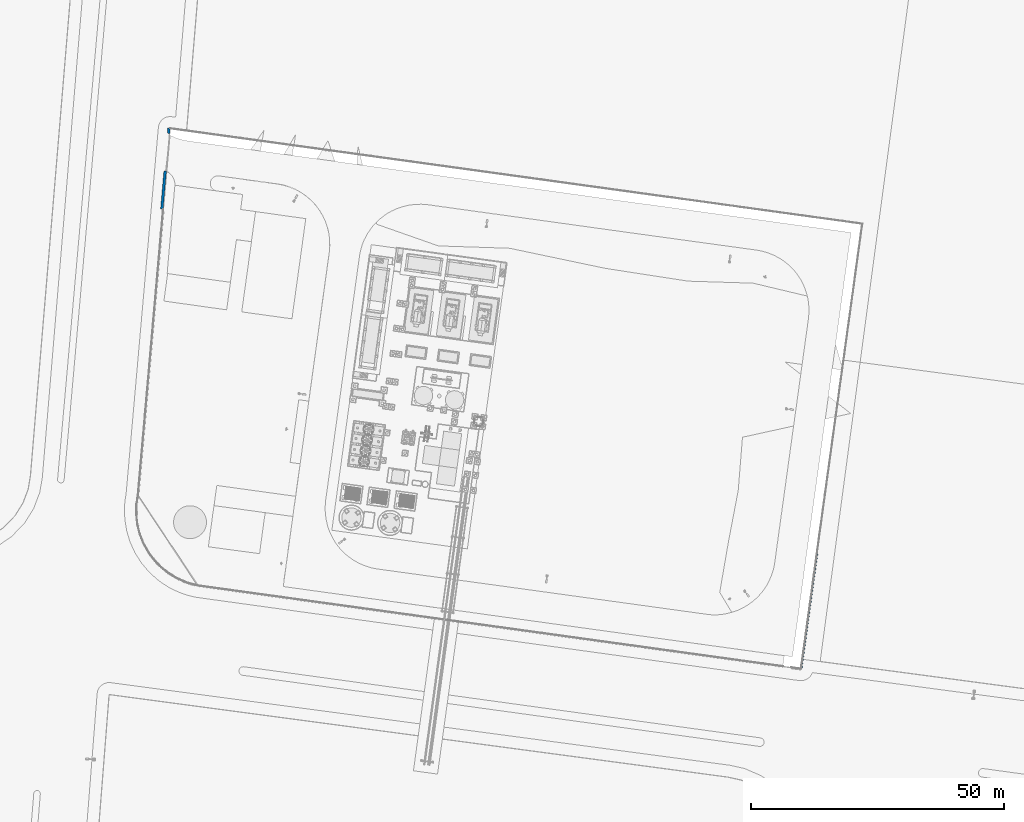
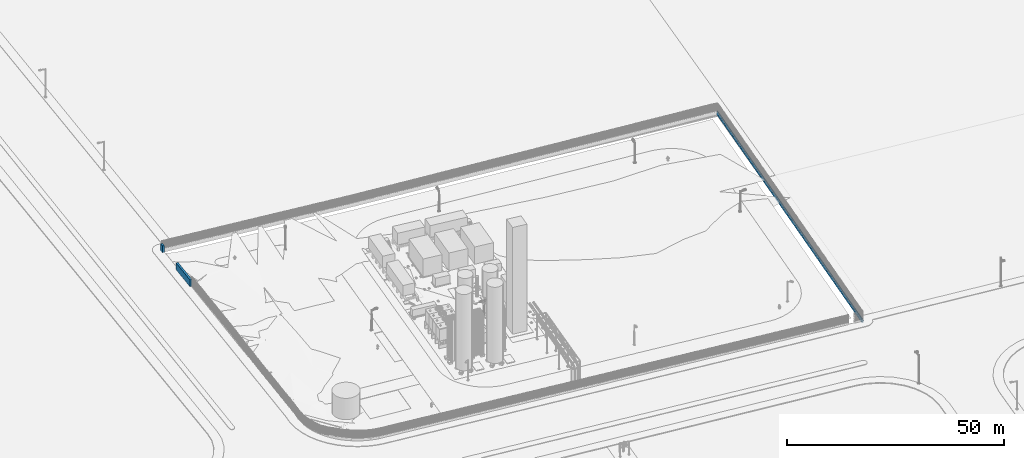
# Not in any storey, part 22 of 75: 3 walls.
"""IFC4 model written with IfcOpenShell, lengths in metres."""

from ifc_helpers import new_model, si_unit, direction, origin, origin_with_axes, place, context, subcontext, project, spatial, triangles, element, save


model = new_model("IFC4")

# Units and contexts
model_context = context("Model", 3, precision=1e-05, world=origin_with_axes(), true_north=direction((0.0, 1.0)))
body_context = subcontext(model_context, "Body", "Model", "MODEL_VIEW")
ifc_project = project(units=[si_unit("AREAUNIT", "SQUARE_METRE"), si_unit("VOLUMEUNIT", "CUBIC_METRE"), si_unit("LENGTHUNIT", "METRE")], contexts=[model_context])

# Site
site_placement = place(None, origin_with_axes())
site = spatial("IfcSite", under=ifc_project, at=site_placement, Name="Parcela industrial Jinhong")

# Walls
wall_1_placement = place(None, origin())
element("IfcWall", 1, at=wall_1_placement, inside=site, Name="Basamento de vallado · Este", ObjectType="Hormigón prefabricado", PredefinedType="USERDEFINED", context=body_context, shape_type="Tessellation", body=[
    triangles([(137.047198, 90.546074, 2.457952), (137.443451, 90.491454, 2.457952), (137.443451, 90.491454, 3.007952), (137.344388, 90.505109, 3.457952), (137.146261, 90.532419, 3.457952), (137.047198, 90.546074, 3.007952), (136.774098, 88.564807, 2.457952), (137.170351, 88.510188, 2.457952), (137.170351, 88.510188, 3.007952), (137.071288, 88.523842, 3.457952), (136.873162, 88.551152, 3.457952), (136.774098, 88.564807, 3.007952)], [[2, 8, 1], [1, 8, 7], [9, 8, 2], [2, 3, 9], [9, 3, 4], [4, 10, 9], [7, 8, 12], [8, 9, 12], [10, 11, 12], [12, 9, 10], [5, 11, 10], [5, 10, 4], [6, 3, 2], [2, 1, 6], [4, 3, 6], [6, 5, 4], [6, 1, 7], [7, 12, 6], [6, 12, 11], [11, 5, 6]], closed=True),
    triangles([(136.774098, 88.564807, 2.457952), (137.170351, 88.510188, 2.457952), (137.170351, 88.510188, 3.007952), (137.071288, 88.523842, 3.457952), (136.873162, 88.551152, 3.457952), (136.774098, 88.564807, 3.007952), (136.500999, 86.583541, 2.433414), (136.897252, 86.528921, 2.433414), (136.897252, 86.528921, 2.983414), (136.798189, 86.542576, 3.433414), (136.600062, 86.569886, 3.433414), (136.500999, 86.583541, 2.983414)], [[2, 8, 1], [1, 8, 7], [9, 8, 2], [2, 3, 9], [9, 3, 4], [4, 10, 9], [7, 8, 12], [8, 9, 12], [10, 11, 12], [12, 9, 10], [5, 11, 10], [5, 10, 4], [6, 3, 2], [2, 1, 6], [4, 3, 6], [6, 5, 4], [6, 1, 7], [7, 12, 6], [6, 12, 11], [11, 5, 6]], closed=True),
    triangles([(136.500999, 86.583541, 2.433414), (136.897252, 86.528921, 2.433414), (136.897252, 86.528921, 2.983414), (136.798189, 86.542576, 3.433414), (136.600062, 86.569886, 3.433414), (136.500999, 86.583541, 2.983414), (136.227899, 84.602275, 2.409624), (136.624153, 84.547655, 2.409624), (136.624153, 84.547655, 2.959624), (136.525089, 84.56131, 3.409624), (136.326963, 84.58862, 3.409624), (136.227899, 84.602275, 2.959624)], [[2, 8, 1], [1, 8, 7], [3, 8, 2], [3, 9, 8], [10, 9, 3], [4, 10, 3], [8, 9, 12], [7, 8, 12], [12, 9, 10], [10, 11, 12], [5, 11, 10], [5, 10, 4], [2, 1, 6], [6, 3, 2], [4, 3, 6], [6, 5, 4], [6, 1, 7], [7, 12, 6], [6, 12, 11], [11, 5, 6]], closed=True),
    triangles([(136.227899, 84.602275, 2.409624), (136.624153, 84.547655, 2.409624), (136.624153, 84.547655, 2.959624), (136.525089, 84.56131, 3.409624), (136.326963, 84.58862, 3.409624), (136.227899, 84.602275, 2.959624), (135.9548, 82.621008, 2.383452), (136.351053, 82.566388, 2.383452), (136.351053, 82.566388, 2.933452), (136.25199, 82.580043, 3.383452), (136.053863, 82.607353, 3.383452), (135.9548, 82.621008, 2.933452)], [[2, 8, 1], [1, 8, 7], [9, 8, 2], [2, 3, 9], [9, 3, 4], [4, 10, 9], [6, 3, 2], [2, 1, 6], [4, 3, 6], [6, 5, 4], [4, 5, 11], [11, 10, 4], [7, 8, 12], [8, 9, 12], [12, 9, 10], [10, 11, 12], [12, 1, 7], [12, 6, 1], [5, 6, 12], [12, 11, 5]], closed=True),
    triangles([(135.9548, 82.621008, 2.383452), (136.351053, 82.566388, 2.383452), (136.351053, 82.566388, 2.933452), (136.25199, 82.580043, 3.383452), (136.053863, 82.607353, 3.383452), (135.9548, 82.621008, 2.933452), (135.681701, 80.639742, 2.359109), (136.077954, 80.585122, 2.359109), (136.077954, 80.585122, 2.909109), (135.978891, 80.598777, 3.359109), (135.780764, 80.626087, 3.359109), (135.681701, 80.639742, 2.909109)], [[2, 8, 1], [1, 8, 7], [9, 8, 2], [2, 3, 9], [9, 3, 4], [4, 10, 9], [7, 8, 12], [8, 9, 12], [10, 11, 12], [12, 9, 10], [5, 11, 10], [5, 10, 4], [6, 3, 2], [2, 1, 6], [4, 3, 6], [6, 5, 4], [6, 1, 7], [7, 12, 6], [6, 12, 11], [11, 5, 6]], closed=True),
    triangles([(135.681701, 80.639742, 2.359109), (136.077954, 80.585122, 2.359109), (136.077954, 80.585122, 2.909109), (135.978891, 80.598777, 3.359109), (135.780764, 80.626087, 3.359109), (135.681701, 80.639742, 2.909109), (135.408601, 78.658475, 2.333603), (135.804855, 78.603855, 2.333603), (135.804855, 78.603855, 2.883603), (135.705791, 78.61751, 3.333603), (135.507665, 78.64482, 3.333603), (135.408601, 78.658475, 2.883603)], [[2, 8, 1], [1, 8, 7], [9, 8, 2], [2, 3, 9], [9, 3, 4], [4, 10, 9], [6, 3, 2], [2, 1, 6], [4, 3, 6], [6, 5, 4], [4, 5, 11], [11, 10, 4], [7, 8, 12], [8, 9, 12], [12, 9, 10], [10, 11, 12], [12, 1, 7], [12, 6, 1], [5, 6, 12], [12, 11, 5]], closed=True),
    triangles([(135.408601, 78.658475, 2.333603), (135.804855, 78.603855, 2.333603), (135.804855, 78.603855, 2.883603), (135.705791, 78.61751, 3.333603), (135.507665, 78.64482, 3.333603), (135.408601, 78.658475, 2.883603), (135.135502, 76.677209, 2.309376), (135.531755, 76.622589, 2.309376), (135.531755, 76.622589, 2.859376), (135.432692, 76.636244, 3.309376), (135.234565, 76.663554, 3.309376), (135.135502, 76.677209, 2.859376)], [[2, 8, 1], [1, 8, 7], [9, 8, 2], [2, 3, 9], [9, 3, 4], [4, 10, 9], [7, 8, 12], [8, 9, 12], [10, 11, 12], [12, 9, 10], [5, 11, 10], [5, 10, 4], [6, 3, 2], [2, 1, 6], [4, 3, 6], [6, 5, 4], [6, 1, 7], [7, 12, 6], [6, 12, 11], [11, 5, 6]], closed=True),
    triangles([(135.135502, 76.677209, 2.309376), (135.531755, 76.622589, 2.309376), (135.531755, 76.622589, 2.859376), (135.432692, 76.636244, 3.309376), (135.234565, 76.663554, 3.309376), (135.135502, 76.677209, 2.859376), (134.862403, 74.695942, 2.284408), (135.258656, 74.641322, 2.284408), (135.258656, 74.641322, 2.834408), (135.159593, 74.654977, 3.284408), (134.961466, 74.682287, 3.284408), (134.862403, 74.695942, 2.834408)], [[2, 8, 1], [1, 8, 7], [9, 8, 2], [2, 3, 9], [9, 3, 4], [4, 10, 9], [6, 3, 2], [2, 1, 6], [4, 3, 6], [6, 5, 4], [4, 5, 11], [11, 10, 4], [7, 8, 12], [8, 9, 12], [12, 9, 10], [10, 11, 12], [12, 1, 7], [12, 6, 1], [5, 6, 12], [12, 11, 5]], closed=True),
    triangles([(134.862403, 74.695942, 2.284408), (135.258656, 74.641322, 2.284408), (135.258656, 74.641322, 2.834408), (135.159593, 74.654977, 3.284408), (134.961466, 74.682287, 3.284408), (134.862403, 74.695942, 2.834408), (134.589303, 72.714676, 2.259713), (134.985557, 72.660056, 2.259713), (134.985557, 72.660056, 2.809713), (134.886493, 72.673711, 3.259713), (134.688367, 72.701021, 3.259713), (134.589303, 72.714676, 2.809713)], [[2, 8, 1], [1, 8, 7], [3, 8, 2], [3, 9, 8], [10, 9, 3], [4, 10, 3], [8, 9, 12], [7, 8, 12], [12, 9, 10], [10, 11, 12], [5, 11, 10], [5, 10, 4], [2, 1, 6], [6, 3, 2], [4, 3, 6], [6, 5, 4], [6, 1, 7], [7, 12, 6], [6, 12, 11], [11, 5, 6]], closed=True),
    triangles([(134.589303, 72.714676, 2.259713), (134.985557, 72.660056, 2.259713), (134.985557, 72.660056, 2.809713), (134.886493, 72.673711, 3.259713), (134.688367, 72.701021, 3.259713), (134.589303, 72.714676, 2.809713), (134.316204, 70.733409, 2.234901), (134.712457, 70.678789, 2.234901), (134.712457, 70.678789, 2.784901), (134.613394, 70.692444, 3.234901), (134.415267, 70.719754, 3.234901), (134.316204, 70.733409, 2.784901)], [[2, 8, 1], [1, 8, 7], [9, 8, 2], [2, 3, 9], [9, 3, 4], [4, 10, 9], [7, 8, 12], [8, 9, 12], [10, 11, 12], [12, 9, 10], [5, 11, 10], [5, 10, 4], [6, 3, 2], [2, 1, 6], [4, 3, 6], [6, 5, 4], [6, 1, 7], [7, 12, 6], [6, 12, 11], [11, 5, 6]], closed=True),
    triangles([(134.316204, 70.733409, 2.234901), (134.712457, 70.678789, 2.234901), (134.712457, 70.678789, 2.784901), (134.613394, 70.692444, 3.234901), (134.415267, 70.719754, 3.234901), (134.316204, 70.733409, 2.784901), (134.043105, 68.752143, 2.210089), (134.439358, 68.697523, 2.210089), (134.439358, 68.697523, 2.760089), (134.340295, 68.711178, 3.210089), (134.142168, 68.738488, 3.210089), (134.043105, 68.752143, 2.760089)], [[2, 8, 1], [1, 8, 7], [9, 8, 2], [2, 3, 9], [9, 3, 4], [4, 10, 9], [6, 3, 2], [2, 1, 6], [4, 3, 6], [6, 5, 4], [6, 1, 7], [7, 12, 6], [7, 8, 11], [8, 9, 11], [11, 9, 10], [11, 12, 7], [4, 5, 11], [11, 10, 4], [5, 6, 11], [11, 6, 12]], closed=True),
    triangles([(134.043105, 68.752143, 2.210089), (134.439358, 68.697523, 2.210089), (134.439358, 68.697523, 2.760089), (134.340295, 68.711178, 3.210089), (134.142168, 68.738488, 3.210089), (134.043105, 68.752143, 2.760089), (133.770005, 66.770876, 2.185277), (134.166259, 66.716257, 2.185277), (134.166259, 66.716257, 2.735277), (134.067195, 66.729912, 3.185277), (133.869069, 66.757221, 3.185277), (133.770005, 66.770876, 2.735277)], [[2, 8, 1], [1, 8, 7], [9, 8, 2], [2, 3, 9], [9, 3, 4], [4, 10, 9], [7, 8, 12], [8, 9, 12], [10, 11, 12], [12, 9, 10], [5, 11, 10], [5, 10, 4], [6, 3, 2], [2, 1, 6], [4, 3, 6], [6, 5, 4], [6, 1, 7], [7, 12, 6], [6, 12, 11], [11, 5, 6]], closed=True),
    triangles([(133.770005, 66.770876, 2.185277), (134.166259, 66.716257, 2.185277), (134.166259, 66.716257, 2.735277), (134.067195, 66.729912, 3.185277), (133.869069, 66.757221, 3.185277), (133.770005, 66.770876, 2.735277), (133.496906, 64.78961, 2.160464), (133.893159, 64.73499, 2.160464), (133.893159, 64.73499, 2.710464), (133.794096, 64.748645, 3.160464), (133.595969, 64.775955, 3.160464), (133.496906, 64.78961, 2.710464)], [[2, 8, 1], [1, 8, 7], [9, 8, 2], [2, 3, 9], [9, 3, 4], [4, 10, 9], [6, 3, 2], [2, 1, 6], [4, 3, 6], [6, 5, 4], [6, 1, 7], [7, 12, 6], [7, 8, 11], [8, 9, 11], [11, 9, 10], [11, 12, 7], [4, 5, 11], [11, 10, 4], [5, 6, 11], [11, 6, 12]], closed=True),
    triangles([(133.496906, 64.78961, 2.160464), (133.893159, 64.73499, 2.160464), (133.893159, 64.73499, 2.710464), (133.794096, 64.748645, 3.160464), (133.595969, 64.775955, 3.160464), (133.496906, 64.78961, 2.710464), (133.223807, 62.808344, 2.135652), (133.62006, 62.753724, 2.135652), (133.62006, 62.753724, 2.685652), (133.520997, 62.767379, 3.135652), (133.32287, 62.794689, 3.135652), (133.223807, 62.808344, 2.685652)], [[2, 8, 1], [1, 8, 7], [11, 10, 5], [5, 10, 4], [7, 8, 9], [9, 12, 7], [9, 10, 11], [11, 12, 9], [9, 8, 2], [2, 3, 9], [9, 3, 4], [4, 10, 9], [2, 1, 6], [6, 3, 2], [4, 3, 6], [6, 5, 4], [6, 1, 7], [7, 12, 6], [6, 12, 11], [11, 5, 6]], closed=True),
    triangles([(133.223807, 62.808344, 2.135652), (133.62006, 62.753724, 2.135652), (133.62006, 62.753724, 2.685652), (133.520997, 62.767379, 3.135652), (133.32287, 62.794689, 3.135652), (133.223807, 62.808344, 2.685652), (132.950707, 60.827077, 2.11084), (133.34696, 60.772457, 2.11084), (133.34696, 60.772457, 2.66084), (133.247897, 60.786112, 3.11084), (133.049771, 60.813422, 3.11084), (132.950707, 60.827077, 2.66084)], [[2, 8, 1], [1, 8, 7], [9, 8, 2], [2, 3, 9], [9, 3, 4], [4, 10, 9], [6, 3, 2], [2, 1, 6], [4, 3, 6], [6, 5, 4], [6, 1, 7], [7, 12, 6], [7, 8, 11], [8, 9, 11], [11, 9, 10], [11, 12, 7], [4, 5, 11], [11, 10, 4], [5, 6, 11], [11, 6, 12]], closed=True),
    triangles([(132.950707, 60.827077, 2.11084), (133.34696, 60.772457, 2.11084), (133.34696, 60.772457, 2.66084), (133.247897, 60.786112, 3.11084), (133.049771, 60.813422, 3.11084), (132.950707, 60.827077, 2.66084), (132.677608, 58.845811, 2.086028), (133.073861, 58.791191, 2.086028), (133.073861, 58.791191, 2.636028), (132.974798, 58.804846, 3.086028), (132.776671, 58.832156, 3.086028), (132.677608, 58.845811, 2.636028)], [[2, 8, 1], [1, 8, 7], [9, 8, 2], [2, 3, 9], [9, 3, 4], [4, 10, 9], [7, 8, 12], [8, 9, 12], [10, 11, 12], [12, 9, 10], [5, 11, 10], [5, 10, 4], [6, 3, 2], [2, 1, 6], [4, 3, 6], [6, 5, 4], [6, 1, 7], [7, 12, 6], [6, 12, 11], [11, 5, 6]], closed=True),
    triangles([(132.677608, 58.845811, 2.086028), (133.073861, 58.791191, 2.086028), (133.073861, 58.791191, 2.636028), (132.974798, 58.804846, 3.086028), (132.776671, 58.832156, 3.086028), (132.677608, 58.845811, 2.636028), (132.404508, 56.864544, 2.061215), (132.800762, 56.809924, 2.061215), (132.800762, 56.809924, 2.611215), (132.701698, 56.823579, 3.061215), (132.503572, 56.850889, 3.061215), (132.404508, 56.864544, 2.611215)], [[2, 8, 1], [1, 8, 7], [9, 8, 2], [2, 3, 9], [9, 3, 4], [4, 10, 9], [6, 3, 2], [2, 1, 6], [4, 3, 6], [6, 5, 4], [6, 1, 7], [7, 12, 6], [7, 8, 11], [8, 9, 11], [11, 9, 10], [11, 12, 7], [4, 5, 11], [11, 10, 4], [5, 6, 11], [11, 6, 12]], closed=True),
    triangles([(132.404508, 56.864544, 2.061215), (132.800762, 56.809924, 2.061215), (132.800762, 56.809924, 2.611215), (132.701698, 56.823579, 3.061215), (132.503572, 56.850889, 3.061215), (132.404508, 56.864544, 2.611215), (132.131409, 54.883278, 2.036403), (132.527662, 54.828658, 2.036403), (132.527662, 54.828658, 2.586403), (132.428599, 54.842313, 3.036403), (132.230472, 54.869623, 3.036403), (132.131409, 54.883278, 2.586403)], [[2, 8, 1], [1, 8, 7], [9, 8, 2], [2, 3, 9], [9, 3, 4], [4, 10, 9], [7, 8, 12], [8, 9, 12], [10, 11, 12], [12, 9, 10], [5, 11, 10], [5, 10, 4], [6, 3, 2], [2, 1, 6], [4, 3, 6], [6, 5, 4], [6, 1, 7], [7, 12, 6], [6, 12, 11], [11, 5, 6]], closed=True),
    triangles([(132.131409, 54.883278, 2.036403), (132.527662, 54.828658, 2.036403), (132.527662, 54.828658, 2.586403), (132.428599, 54.842313, 3.036403), (132.230472, 54.869623, 3.036403), (132.131409, 54.883278, 2.586403), (131.85831, 52.902011, 2.011591), (132.254563, 52.847391, 2.011591), (132.254563, 52.847391, 2.561591), (132.1555, 52.861046, 3.011591), (131.957373, 52.888356, 3.011591), (131.85831, 52.902011, 2.561591)], [[2, 8, 1], [1, 8, 7], [11, 10, 5], [5, 10, 4], [7, 8, 9], [9, 12, 7], [9, 10, 11], [11, 12, 9], [9, 8, 2], [2, 3, 9], [9, 3, 4], [4, 10, 9], [2, 1, 6], [6, 3, 2], [4, 3, 6], [6, 5, 4], [6, 1, 7], [7, 12, 6], [6, 12, 11], [11, 5, 6]], closed=True),
    triangles([(131.85831, 52.902011, 2.011591), (132.254563, 52.847391, 2.011591), (132.254563, 52.847391, 2.561591), (132.1555, 52.861046, 3.011591), (131.957373, 52.888356, 3.011591), (131.85831, 52.902011, 2.561591), (131.58521, 50.920745, 1.986779), (131.981464, 50.866125, 1.986779), (131.981464, 50.866125, 2.536779), (131.8824, 50.87978, 2.986779), (131.684274, 50.90709, 2.986779), (131.58521, 50.920745, 2.536779)], [[2, 8, 1], [1, 8, 7], [9, 8, 2], [2, 3, 9], [9, 3, 4], [4, 10, 9], [6, 3, 2], [2, 1, 6], [4, 3, 6], [6, 5, 4], [6, 1, 7], [7, 12, 6], [7, 8, 11], [8, 9, 11], [11, 9, 10], [11, 12, 7], [4, 5, 11], [11, 10, 4], [5, 6, 11], [11, 6, 12]], closed=True),
    triangles([(131.58521, 50.920745, 1.986779), (131.981464, 50.866125, 1.986779), (131.981464, 50.866125, 2.536779), (131.8824, 50.87978, 2.986779), (131.684274, 50.90709, 2.986779), (131.58521, 50.920745, 2.536779), (131.312111, 48.939478, 1.961966), (131.708364, 48.884859, 1.961966), (131.708364, 48.884859, 2.511966), (131.609301, 48.898514, 2.961966), (131.411174, 48.925823, 2.961966), (131.312111, 48.939478, 2.511966)], [[2, 8, 1], [1, 8, 7], [9, 8, 2], [2, 3, 9], [9, 3, 4], [4, 10, 9], [6, 3, 2], [2, 1, 6], [4, 3, 6], [6, 5, 4], [6, 1, 7], [7, 12, 6], [7, 8, 11], [8, 9, 11], [11, 9, 10], [11, 12, 7], [4, 5, 11], [11, 10, 4], [5, 6, 11], [11, 6, 12]], closed=True),
    triangles([(131.312111, 48.939478, 1.961966), (131.708364, 48.884859, 1.961966), (131.708364, 48.884859, 2.511966), (131.609301, 48.898514, 2.961966), (131.411174, 48.925823, 2.961966), (131.312111, 48.939478, 2.511966), (131.039012, 46.958212, 1.937154), (131.435265, 46.903592, 1.937154), (131.435265, 46.903592, 2.487154), (131.336202, 46.917247, 2.937154), (131.138075, 46.944557, 2.937154), (131.039012, 46.958212, 2.487154)], [[2, 8, 1], [1, 8, 7], [9, 8, 2], [2, 3, 9], [9, 3, 4], [4, 10, 9], [7, 8, 12], [8, 9, 12], [10, 11, 12], [12, 9, 10], [5, 11, 10], [5, 10, 4], [6, 3, 2], [2, 1, 6], [4, 3, 6], [6, 5, 4], [6, 1, 7], [7, 12, 6], [6, 12, 11], [11, 5, 6]], closed=True),
    triangles([(131.039012, 46.958212, 1.937154), (131.435265, 46.903592, 1.937154), (131.435265, 46.903592, 2.487154), (131.336202, 46.917247, 2.937154), (131.138075, 46.944557, 2.937154), (131.039012, 46.958212, 2.487154), (130.765912, 44.976946, 1.912342), (131.162166, 44.922326, 1.912342), (131.162166, 44.922326, 2.462342), (131.063102, 44.935981, 2.912342), (130.864976, 44.963291, 2.912342), (130.765912, 44.976946, 2.462342)], [[2, 8, 1], [1, 8, 7], [3, 8, 2], [3, 9, 8], [10, 9, 3], [4, 10, 3], [2, 1, 6], [6, 5, 4], [6, 3, 2], [4, 3, 6], [6, 1, 7], [7, 12, 6], [8, 9, 11], [7, 8, 11], [11, 9, 10], [11, 12, 7], [4, 5, 11], [11, 10, 4], [5, 6, 11], [11, 6, 12]], closed=True),
    triangles([(130.765912, 44.976946, 1.912342), (131.162166, 44.922326, 1.912342), (131.162166, 44.922326, 2.462342), (131.063102, 44.935981, 2.912342), (130.864976, 44.963291, 2.912342), (130.765912, 44.976946, 2.462342), (130.492813, 42.995679, 1.88753), (130.889066, 42.941059, 1.88753), (130.889066, 42.941059, 2.43753), (130.790003, 42.954714, 2.88753), (130.591876, 42.982024, 2.88753), (130.492813, 42.995679, 2.43753)], [[2, 8, 1], [1, 8, 7], [9, 8, 2], [2, 3, 9], [9, 3, 4], [4, 10, 9], [7, 8, 12], [8, 9, 12], [10, 11, 12], [12, 9, 10], [5, 11, 10], [5, 10, 4], [6, 3, 2], [2, 1, 6], [4, 3, 6], [6, 5, 4], [6, 1, 7], [7, 12, 6], [6, 12, 11], [11, 5, 6]], closed=True),
    triangles([(130.492813, 42.995679, 1.88753), (130.889066, 42.941059, 1.88753), (130.889066, 42.941059, 2.43753), (130.790003, 42.954714, 2.88753), (130.591876, 42.982024, 2.88753), (130.492813, 42.995679, 2.43753), (130.219714, 41.014413, 1.862717), (130.615967, 40.959793, 1.862717), (130.615967, 40.959793, 2.412717), (130.516904, 40.973448, 2.862717), (130.318777, 41.000758, 2.862717), (130.219714, 41.014413, 2.412717)], [[2, 8, 1], [1, 8, 7], [11, 10, 5], [5, 10, 4], [7, 8, 9], [9, 12, 7], [9, 10, 11], [11, 12, 9], [9, 8, 2], [2, 3, 9], [9, 3, 4], [4, 10, 9], [2, 1, 6], [6, 3, 2], [4, 3, 6], [6, 5, 4], [6, 1, 7], [7, 12, 6], [6, 12, 11], [11, 5, 6]], closed=True),
    triangles([(130.219714, 41.014413, 1.862717), (130.615967, 40.959793, 1.862717), (130.615967, 40.959793, 2.412717), (130.516904, 40.973448, 2.862717), (130.318777, 41.000758, 2.862717), (130.219714, 41.014413, 2.412717), (129.946614, 39.033146, 1.837905), (130.342868, 38.978526, 1.837905), (130.342868, 38.978526, 2.387905), (130.243804, 38.992181, 2.837905), (130.045678, 39.019491, 2.837905), (129.946614, 39.033146, 2.387905)], [[2, 8, 1], [1, 8, 7], [9, 8, 2], [2, 3, 9], [9, 3, 4], [4, 10, 9], [7, 8, 12], [8, 9, 12], [10, 11, 12], [12, 9, 10], [5, 11, 10], [5, 10, 4], [6, 3, 2], [2, 1, 6], [4, 3, 6], [6, 5, 4], [6, 1, 7], [7, 12, 6], [6, 12, 11], [11, 5, 6]], closed=True),
    triangles([(129.946614, 39.033146, 1.837905), (130.342868, 38.978526, 1.837905), (130.342868, 38.978526, 2.387905), (130.243804, 38.992181, 2.837905), (130.045678, 39.019491, 2.837905), (129.946614, 39.033146, 2.387905), (129.673515, 37.05188, 1.813093), (130.069768, 36.99726, 1.813093), (130.069768, 36.99726, 2.363093), (129.970705, 37.010915, 2.813093), (129.772578, 37.038225, 2.813093), (129.673515, 37.05188, 2.363093)], [[2, 8, 1], [1, 8, 7], [9, 8, 2], [2, 3, 9], [9, 3, 4], [4, 10, 9], [6, 3, 2], [2, 1, 6], [4, 3, 6], [6, 5, 4], [4, 5, 11], [11, 10, 4], [7, 8, 12], [8, 9, 12], [12, 9, 10], [10, 11, 12], [12, 1, 7], [12, 6, 1], [5, 6, 12], [12, 11, 5]], closed=True),
    triangles([(129.673515, 37.05188, 1.813093), (130.069768, 36.99726, 1.813093), (130.069768, 36.99726, 2.363093), (129.970705, 37.010915, 2.813093), (129.772578, 37.038225, 2.813093), (129.673515, 37.05188, 2.363093), (129.400416, 35.070613, 1.788281), (129.796669, 35.015993, 1.788281), (129.796669, 35.015993, 2.338281), (129.697606, 35.029648, 2.788281), (129.499479, 35.056958, 2.788281), (129.400416, 35.070613, 2.338281)], [[2, 8, 1], [1, 8, 7], [3, 8, 2], [3, 9, 8], [10, 9, 3], [4, 10, 3], [8, 9, 12], [7, 8, 12], [12, 9, 10], [10, 11, 12], [5, 11, 10], [5, 10, 4], [2, 1, 6], [6, 3, 2], [4, 3, 6], [6, 5, 4], [6, 1, 7], [7, 12, 6], [6, 12, 11], [11, 5, 6]], closed=True),
    triangles([(129.400416, 35.070613, 1.788281), (129.796669, 35.015993, 1.788281), (129.796669, 35.015993, 2.338281), (129.697606, 35.029648, 2.788281), (129.499479, 35.056958, 2.788281), (129.400416, 35.070613, 2.338281), (129.127316, 33.089347, 1.763469), (129.523569, 33.034727, 1.763469), (129.523569, 33.034727, 2.313469), (129.424506, 33.048382, 2.763469), (129.22638, 33.075692, 2.763469), (129.127316, 33.089347, 2.313469)], [[2, 8, 1], [1, 8, 7], [9, 8, 2], [2, 3, 9], [9, 3, 4], [4, 10, 9], [6, 3, 2], [2, 1, 6], [4, 3, 6], [6, 5, 4], [6, 1, 7], [7, 12, 6], [7, 8, 11], [8, 9, 11], [11, 9, 10], [11, 12, 7], [4, 5, 11], [11, 10, 4], [5, 6, 11], [11, 6, 12]], closed=True),
    triangles([(129.127316, 33.089347, 1.763469), (129.523569, 33.034727, 1.763469), (129.523569, 33.034727, 2.313469), (129.424506, 33.048382, 2.763469), (129.22638, 33.075692, 2.763469), (129.127316, 33.089347, 2.313469), (128.854217, 31.10808, 1.738656), (129.25047, 31.053461, 1.738656), (129.25047, 31.053461, 2.288656), (129.151407, 31.067115, 2.738656), (128.95328, 31.094425, 2.738656), (128.854217, 31.10808, 2.288656)], [[2, 8, 1], [1, 8, 7], [9, 8, 2], [2, 3, 9], [9, 3, 4], [4, 10, 9], [7, 8, 12], [8, 9, 12], [10, 11, 12], [12, 9, 10], [5, 11, 10], [5, 10, 4], [6, 3, 2], [2, 1, 6], [4, 3, 6], [6, 5, 4], [6, 1, 7], [7, 12, 6], [6, 12, 11], [11, 5, 6]], closed=True),
    triangles([(128.854217, 31.10808, 1.738656), (129.25047, 31.053461, 1.738656), (129.25047, 31.053461, 2.288656), (129.151407, 31.067115, 2.738656), (128.95328, 31.094425, 2.738656), (128.854217, 31.10808, 2.288656), (128.581117, 29.126814, 1.713844), (128.977371, 29.072194, 1.713844), (128.977371, 29.072194, 2.263844), (128.878307, 29.085849, 2.713844), (128.680181, 29.113159, 2.713844), (128.581117, 29.126814, 2.263844)], [[2, 8, 1], [1, 8, 7], [3, 8, 2], [3, 9, 8], [10, 9, 3], [4, 10, 3], [2, 1, 6], [6, 5, 4], [6, 3, 2], [4, 3, 6], [6, 1, 7], [7, 12, 6], [8, 9, 11], [7, 8, 11], [11, 9, 10], [11, 12, 7], [4, 5, 11], [11, 10, 4], [5, 6, 11], [11, 6, 12]], closed=True),
    triangles([(128.581117, 29.126814, 1.713844), (128.977371, 29.072194, 1.713844), (128.977371, 29.072194, 2.263844), (128.878307, 29.085849, 2.713844), (128.680181, 29.113159, 2.713844), (128.581117, 29.126814, 2.263844), (128.308018, 27.145547, 1.689032), (128.704271, 27.090928, 1.689032), (128.704271, 27.090928, 2.239032), (128.605208, 27.104583, 2.689032), (128.407081, 27.131893, 2.689032), (128.308018, 27.145547, 2.239032)], [[2, 8, 1], [1, 8, 7], [9, 8, 2], [2, 3, 9], [9, 3, 4], [4, 10, 9], [7, 8, 12], [8, 9, 12], [10, 11, 12], [12, 9, 10], [5, 11, 10], [5, 10, 4], [6, 3, 2], [2, 1, 6], [4, 3, 6], [6, 5, 4], [6, 1, 7], [7, 12, 6], [6, 12, 11], [11, 5, 6]], closed=True),
    triangles([(128.308018, 27.145547, 1.689032), (128.704271, 27.090928, 1.689032), (128.704271, 27.090928, 2.239032), (128.605208, 27.104583, 2.689032), (128.407081, 27.131893, 2.689032), (128.308018, 27.145547, 2.239032), (128.034919, 25.164281, 1.66422), (128.431172, 25.109661, 1.66422), (128.431172, 25.109661, 2.21422), (128.332109, 25.123316, 2.66422), (128.133982, 25.150626, 2.66422), (128.034919, 25.164281, 2.21422)], [[2, 8, 1], [1, 8, 7], [9, 8, 2], [2, 3, 9], [9, 3, 4], [4, 10, 9], [7, 8, 12], [8, 9, 12], [10, 11, 12], [12, 9, 10], [5, 11, 10], [5, 10, 4], [6, 3, 2], [2, 1, 6], [4, 3, 6], [6, 5, 4], [6, 1, 7], [7, 12, 6], [6, 12, 11], [11, 5, 6]], closed=True),
    triangles([(128.034919, 25.164281, 1.66422), (128.431172, 25.109661, 1.66422), (128.431172, 25.109661, 2.21422), (128.332109, 25.123316, 2.66422), (128.133982, 25.150626, 2.66422), (128.034919, 25.164281, 2.21422), (127.761819, 23.183015, 1.639407), (128.158073, 23.128395, 1.639407), (128.158073, 23.128395, 2.189407), (128.059009, 23.14205, 2.639407), (127.860883, 23.16936, 2.639407), (127.761819, 23.183015, 2.189407)], [[8, 1, 2], [7, 1, 8], [3, 8, 2], [9, 8, 3], [6, 3, 2], [2, 1, 6], [6, 5, 4], [4, 3, 6], [6, 1, 7], [7, 12, 6], [10, 3, 4], [9, 3, 10], [7, 8, 11], [11, 8, 9], [11, 12, 7], [9, 10, 11], [11, 6, 12], [5, 6, 11], [4, 5, 11], [11, 10, 4]], closed=True),
    triangles([(127.761819, 23.183015, 1.639407), (128.158073, 23.128395, 1.639407), (128.158073, 23.128395, 2.189407), (128.059009, 23.14205, 2.639407), (127.860883, 23.16936, 2.639407), (127.761819, 23.183015, 2.189407), (127.48872, 21.201748, 1.614595), (127.884973, 21.147128, 1.614595), (127.884973, 21.147128, 2.164595), (127.78591, 21.160783, 2.614595), (127.587783, 21.188093, 2.614595), (127.48872, 21.201748, 2.164595)], [[8, 1, 2], [7, 1, 8], [3, 8, 2], [9, 8, 3], [6, 3, 2], [2, 1, 6], [6, 5, 4], [4, 3, 6], [6, 1, 7], [7, 12, 6], [11, 6, 12], [5, 6, 11], [7, 8, 10], [10, 8, 9], [10, 12, 7], [10, 11, 12], [10, 3, 4], [9, 3, 10], [4, 5, 10], [5, 11, 10]], closed=True),
    triangles([(127.48872, 21.201748, 1.614595), (127.884973, 21.147128, 1.614595), (127.884973, 21.147128, 2.164595), (127.78591, 21.160783, 2.614595), (127.587783, 21.188093, 2.614595), (127.48872, 21.201748, 2.164595), (127.215621, 19.220482, 1.59023), (127.611874, 19.165862, 1.59023), (127.611874, 19.165862, 2.14023), (127.512811, 19.179517, 2.59023), (127.314684, 19.206827, 2.59023), (127.215621, 19.220482, 2.14023)], [[2, 8, 1], [1, 8, 7], [9, 8, 2], [2, 3, 9], [9, 3, 4], [4, 10, 9], [7, 8, 12], [8, 9, 12], [12, 10, 11], [12, 9, 10], [12, 1, 7], [12, 6, 1], [2, 1, 5], [5, 3, 2], [4, 3, 5], [1, 6, 5], [11, 10, 5], [5, 10, 4], [5, 12, 11], [6, 12, 5]], closed=True),
    triangles([(127.215621, 19.220482, 1.59023), (127.611874, 19.165862, 1.59023), (127.611874, 19.165862, 2.14023), (127.512811, 19.179517, 2.59023), (127.314684, 19.206827, 2.59023), (127.215621, 19.220482, 2.14023), (126.942521, 17.239215, 1.565218), (127.338775, 17.184595, 1.565218), (127.338775, 17.184595, 2.115218), (127.239711, 17.19825, 2.565218), (127.041585, 17.22556, 2.565218), (126.942521, 17.239215, 2.115218)], [[2, 8, 1], [1, 8, 7], [11, 10, 5], [5, 10, 4], [7, 8, 9], [9, 12, 7], [9, 10, 11], [11, 12, 9], [9, 8, 2], [2, 3, 9], [9, 3, 4], [4, 10, 9], [2, 1, 6], [6, 3, 2], [4, 3, 6], [6, 5, 4], [6, 1, 7], [7, 12, 6], [6, 12, 11], [11, 5, 6]], closed=True),
    triangles([(126.942521, 17.239215, 1.565218), (127.338775, 17.184595, 1.565218), (127.338775, 17.184595, 2.115218), (127.239711, 17.19825, 2.565218), (127.041585, 17.22556, 2.565218), (126.942521, 17.239215, 2.115218), (126.669422, 15.257949, 1.540013), (127.065675, 15.203329, 1.540013), (127.065675, 15.203329, 2.090013), (126.966612, 15.216984, 2.540013), (126.768485, 15.244294, 2.540013), (126.669422, 15.257949, 2.090013)], [[2, 8, 1], [1, 8, 7], [9, 8, 2], [2, 3, 9], [9, 3, 4], [4, 10, 9], [7, 8, 12], [8, 9, 12], [12, 10, 11], [12, 9, 10], [12, 1, 7], [12, 6, 1], [2, 1, 5], [5, 3, 2], [4, 3, 5], [1, 6, 5], [11, 10, 5], [5, 10, 4], [5, 12, 11], [6, 12, 5]], closed=True),
    triangles([(126.669422, 15.257949, 1.540013), (127.065675, 15.203329, 1.540013), (127.065675, 15.203329, 2.090013), (126.966612, 15.216984, 2.540013), (126.768485, 15.244294, 2.540013), (126.669422, 15.257949, 2.090013), (126.396323, 13.276682, 1.512796), (126.792576, 13.222062, 1.512796), (126.792576, 13.222062, 2.062796), (126.693513, 13.235717, 2.512796), (126.495386, 13.263027, 2.512796), (126.396323, 13.276682, 2.062796)], [[2, 8, 1], [1, 8, 7], [3, 8, 2], [3, 9, 8], [10, 9, 3], [4, 10, 3], [2, 1, 6], [6, 5, 4], [6, 3, 2], [4, 3, 6], [6, 1, 7], [7, 12, 6], [8, 9, 11], [7, 8, 11], [11, 9, 10], [11, 12, 7], [4, 5, 11], [11, 10, 4], [5, 6, 11], [11, 6, 12]], closed=True),
    triangles([(126.396323, 13.276682, 1.512796), (126.792576, 13.222062, 1.512796), (126.792576, 13.222062, 2.062796), (126.693513, 13.235717, 2.512796), (126.495386, 13.263027, 2.512796), (126.396323, 13.276682, 2.062796), (126.123223, 11.295416, 1.490759), (126.519477, 11.240796, 1.490759), (126.519477, 11.240796, 2.040759), (126.420413, 11.254451, 2.490759), (126.222287, 11.281761, 2.490759), (126.123223, 11.295416, 2.040759)], [[2, 8, 1], [1, 8, 7], [11, 10, 5], [5, 10, 4], [7, 8, 9], [9, 12, 7], [9, 10, 11], [11, 12, 9], [9, 8, 2], [2, 3, 9], [9, 3, 4], [4, 10, 9], [2, 1, 6], [6, 3, 2], [4, 3, 6], [6, 5, 4], [6, 1, 7], [7, 12, 6], [6, 12, 11], [11, 5, 6]], closed=True),
    triangles([(126.123223, 11.295416, 1.490759), (126.519477, 11.240796, 1.490759), (126.519477, 11.240796, 2.040759), (126.420413, 11.254451, 2.490759), (126.222287, 11.281761, 2.490759), (126.123223, 11.295416, 2.040759), (125.850124, 9.314149, 1.465916), (126.246377, 9.25953, 1.465916), (126.246377, 9.25953, 2.015916), (126.147314, 9.273185, 2.465916), (125.949187, 9.300494, 2.465916), (125.850124, 9.314149, 2.015916)], [[2, 8, 1], [1, 8, 7], [3, 8, 2], [3, 9, 8], [10, 9, 3], [4, 10, 3], [8, 9, 12], [7, 8, 12], [12, 9, 10], [10, 11, 12], [5, 11, 10], [5, 10, 4], [2, 1, 6], [6, 3, 2], [4, 3, 6], [6, 5, 4], [6, 1, 7], [7, 12, 6], [6, 12, 11], [11, 5, 6]], closed=True),
    triangles([(125.850124, 9.314149, 1.465916), (126.246377, 9.25953, 1.465916), (126.246377, 9.25953, 2.015916), (126.147314, 9.273185, 2.465916), (125.949187, 9.300494, 2.465916), (125.850124, 9.314149, 2.015916), (125.577025, 7.332883, 1.441073), (125.973278, 7.278263, 1.441073), (125.973278, 7.278263, 1.991073), (125.874215, 7.291918, 2.441073), (125.676088, 7.319228, 2.441073), (125.577025, 7.332883, 1.991073)], [[2, 8, 1], [1, 8, 7], [11, 10, 5], [5, 10, 4], [7, 8, 9], [9, 12, 7], [9, 10, 11], [11, 12, 9], [9, 8, 2], [2, 3, 9], [9, 3, 4], [4, 10, 9], [2, 1, 6], [6, 3, 2], [4, 3, 6], [6, 5, 4], [6, 1, 7], [7, 12, 6], [6, 12, 11], [11, 5, 6]], closed=True),
    triangles([(125.577025, 7.332883, 1.441073), (125.973278, 7.278263, 1.441073), (125.973278, 7.278263, 1.991073), (125.874215, 7.291918, 2.441073), (125.676088, 7.319228, 2.441073), (125.577025, 7.332883, 1.991073), (125.303925, 5.351617, 1.416229), (125.700178, 5.296997, 1.416229), (125.700178, 5.296997, 1.966229), (125.601115, 5.310652, 2.416229), (125.402989, 5.337962, 2.416229), (125.303925, 5.351617, 1.966229)], [[2, 8, 1], [1, 8, 7], [3, 8, 2], [3, 9, 8], [10, 9, 3], [4, 10, 3], [2, 1, 6], [6, 5, 4], [6, 3, 2], [4, 3, 6], [4, 5, 11], [11, 10, 4], [8, 9, 12], [7, 8, 12], [12, 9, 10], [10, 11, 12], [12, 1, 7], [12, 6, 1], [5, 6, 12], [12, 11, 5]], closed=True),
    triangles([(125.303925, 5.351617, 1.416229), (125.700178, 5.296997, 1.416229), (125.700178, 5.296997, 1.966229), (125.601115, 5.310652, 2.416229), (125.402989, 5.337962, 2.416229), (125.303925, 5.351617, 1.966229), (125.030826, 3.37035, 1.409212), (125.427079, 3.31573, 1.409212), (125.427079, 3.31573, 1.959212), (125.328016, 3.329385, 2.409212), (125.129889, 3.356695, 2.409212), (125.030826, 3.37035, 1.959212)], [[2, 8, 1], [1, 8, 7], [11, 10, 5], [5, 10, 4], [7, 8, 9], [9, 12, 7], [9, 10, 11], [11, 12, 9], [9, 8, 2], [2, 3, 9], [9, 3, 4], [4, 10, 9], [2, 1, 6], [6, 3, 2], [4, 3, 6], [6, 5, 4], [6, 1, 7], [7, 12, 6], [6, 12, 11], [11, 5, 6]], closed=True),
    triangles([(125.030826, 3.37035, 1.409212), (125.427079, 3.31573, 1.409212), (125.427079, 3.31573, 1.959212), (125.328016, 3.329385, 2.409212), (125.129889, 3.356695, 2.409212), (125.030826, 3.37035, 1.959212), (124.937293, 2.691797, 1.409212), (125.333547, 2.637177, 1.409212), (125.333547, 2.637177, 1.959212), (125.234483, 2.650832, 2.409212), (125.036357, 2.678142, 2.409212), (124.937293, 2.691797, 1.959212)], [[2, 8, 1], [1, 8, 7], [11, 10, 5], [5, 10, 4], [7, 8, 9], [9, 12, 7], [9, 10, 11], [11, 12, 9], [9, 8, 2], [2, 3, 9], [9, 3, 4], [4, 10, 9], [2, 1, 6], [6, 3, 2], [4, 3, 6], [6, 5, 4], [6, 1, 7], [7, 12, 6], [6, 12, 11], [11, 5, 6]], closed=True),
])
wall_2_placement = place(None, origin())
element("IfcWall", 2, at=wall_2_placement, inside=site, Name="Muro de acceso largo · granito gris", ObjectType="Fábrica MU10 con mortero M7.5 y revestimiento de granito", PredefinedType="USERDEFINED", context=body_context, shape_type="Tessellation", body=[
    triangles([(-1.313816, 93.462233, 0.71352), (-0.662202, 100.933873, 0.7), (-0.149946, 100.889704, 0.688548), (-0.801171, 93.41803, 0.705392), (-1.313816, 93.462233, 2.66352), (-0.662202, 100.933873, 2.65), (-0.149946, 100.889704, 2.638548), (-0.801171, 93.41803, 2.655392)], [[1, 3, 4], [2, 3, 1], [5, 8, 6], [8, 7, 6], [8, 5, 1], [1, 4, 8], [7, 8, 4], [7, 4, 3], [1, 5, 6], [6, 2, 1], [6, 7, 3], [3, 2, 6]], closed=True),
])
wall_3_placement = place(None, origin())
element("IfcWall", 3, at=wall_3_placement, inside=site, Name="Muro de acceso corto · granito gris", ObjectType="Fábrica MU10 con mortero M7.5 y revestimiento de granito", PredefinedType="USERDEFINED", context=body_context, shape_type="Tessellation", body=[
    triangles([(0.595, 109.357, 0.694078), (0.508168, 108.360777, 0.694078), (0.011095, 108.403993, 0.694078), (0.097927, 109.400216, 0.694078), (0.595, 109.357, 2.644078), (0.508168, 108.360777, 2.644078), (0.011095, 108.403993, 2.644078), (0.097927, 109.400216, 2.644078)], [[1, 5, 6], [6, 2, 1], [1, 2, 4], [4, 2, 3], [2, 6, 7], [3, 2, 7], [8, 5, 1], [1, 4, 8], [8, 6, 5], [8, 7, 6], [8, 4, 3], [3, 7, 8]], closed=True),
])

save(model, "model.ifc")
